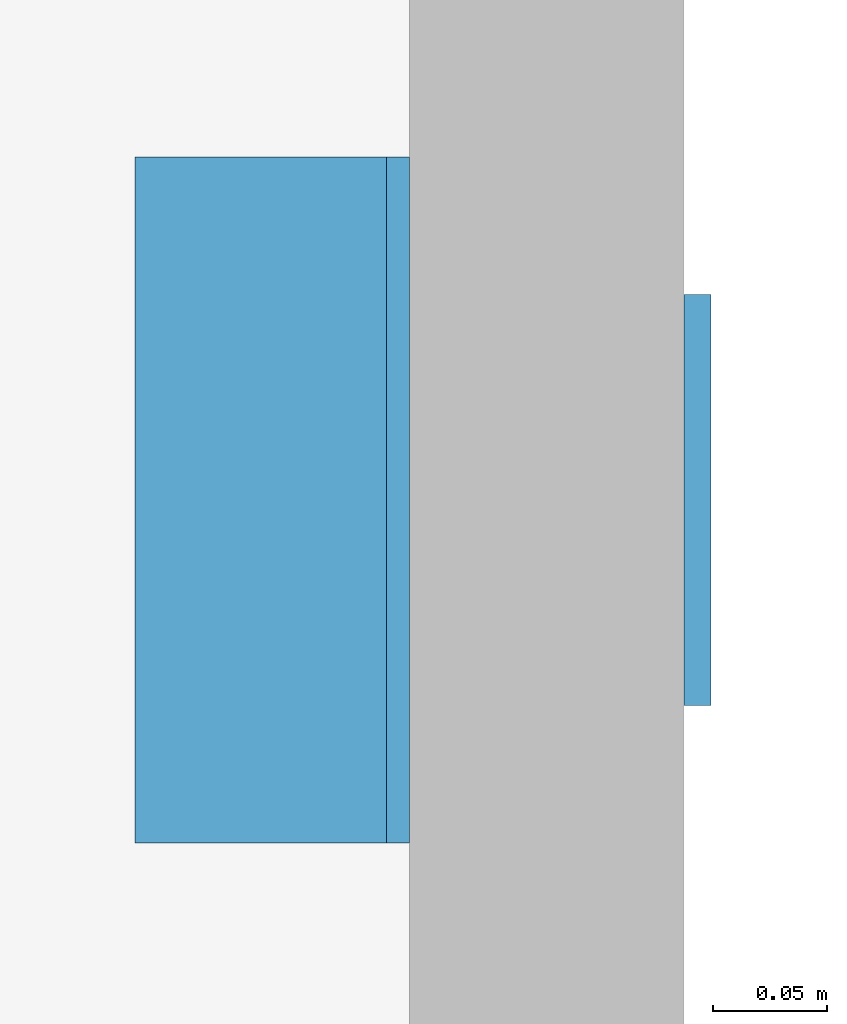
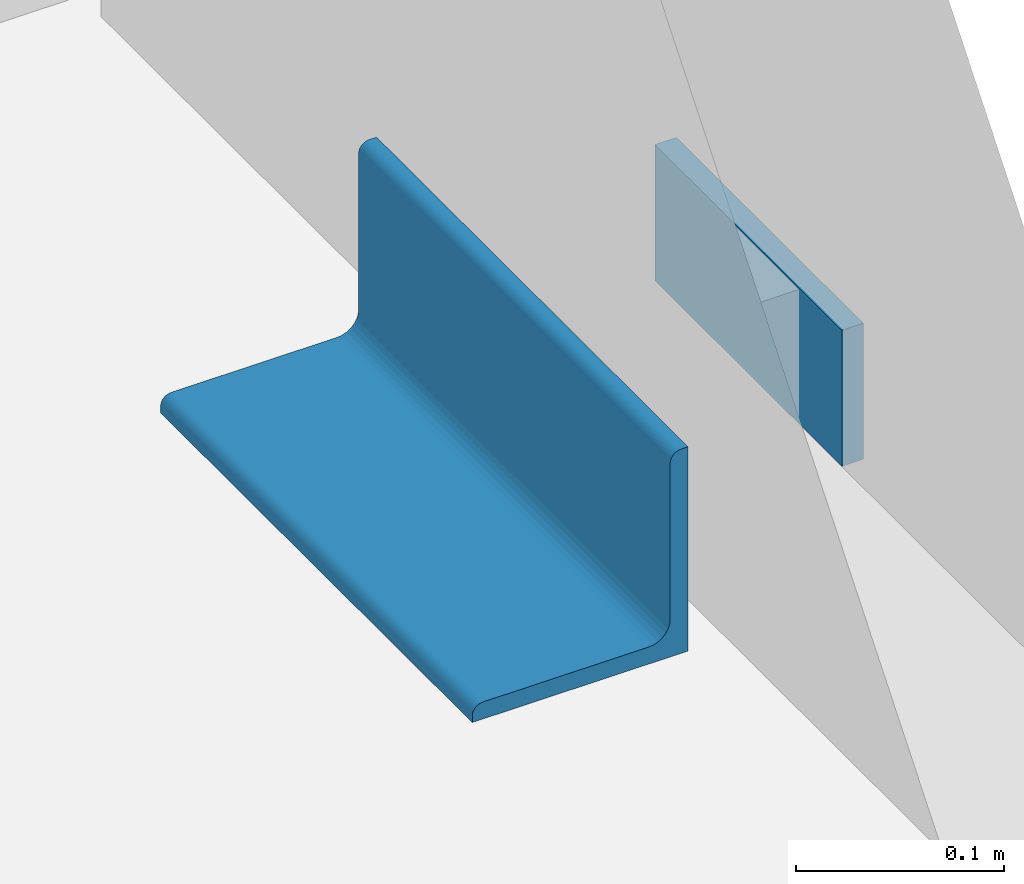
# One storey, part 20 of 31: 2 beams.
"""IFC2X3 building model written with IfcOpenShell, lengths in millimetres."""

import ifcopenshell
import ifcopenshell.guid

model = None  # the IFC model being written
_history = None  # IfcOwnerHistory: only IFC2X3 demands one
_inside = {}  # id of a spatial element -> (the spatial element, [elements in it])
_under = {}  # id of a project, library or spatial element -> (it, [spatial elements below it])
_declared = {}  # id of a project -> (the project, [libraries it declares])
_typed = {}  # id of a type object -> (the type object, [elements of that type])
_made_of = {}  # id of a material, layer set ... -> (it, [elements and type objects made of it])


def new_model(schema):
    """Start an empty IFC model of exactly this schema.

    Asked for "IFC4X3", IfcOpenShell would pick the latest addendum, in which some entities
    have other attributes; the version numbers below select the first issue.
    IFC2X3 requires an IfcOwnerHistory on every rooted entity: one is made here for all.
    """
    global model, _history
    if schema == "IFC4X3":
        model = ifcopenshell.file(schema_version=(4, 3, 0, 0))
    else:
        model = ifcopenshell.file(schema=schema)
    _inside.clear()
    _under.clear()
    _declared.clear()
    _typed.clear()
    _made_of.clear()
    _history = None
    if model.schema == "IFC2X3":
        org = make("IfcOrganization", Name="unknown")
        user = make(
            "IfcPersonAndOrganization",
            ThePerson=make("IfcPerson", FamilyName="unknown"),
            TheOrganization=org,
        )
        app = make(
            "IfcApplication",
            ApplicationDeveloper=org,
            Version="unknown",
            ApplicationFullName="unknown",
            ApplicationIdentifier="unknown",
        )
        _history = make(
            "IfcOwnerHistory",
            OwningUser=user,
            OwningApplication=app,
            ChangeAction="ADDED",
            CreationDate=0,
        )
    return model


def make(cls, **values):
    """One entity of the class cls with the attributes given. An attribute that is None is left unset."""
    return model.create_entity(
        cls, **{name: value for name, value in values.items() if value is not None}
    )


def entity(cls, *values):
    """Any entity or typed value of the class cls, its attributes in the order of the schema. None: left unset."""
    e = model.create_entity(cls)
    for i, value in enumerate(values):
        if value is not None:
            e[i] = value
    return e


def rooted(cls, **values):
    """An entity with a GlobalId (a new one), such as an element, a storey or a relation."""
    return make(cls, GlobalId=ifcopenshell.guid.new(), OwnerHistory=_history, **values)


def si_unit(unit_type, name, prefix=None):
    """IfcSIUnit, for example si_unit("LENGTHUNIT", "METRE", prefix="MILLI")."""
    return make("IfcSIUnit", UnitType=unit_type, Prefix=prefix, Name=name)


def converted_unit(unit_type, name, factor, base, dimensions=None, offset=None):
    """IfcConversionBasedUnit, such as the inch: factor (a typed value) times the base unit."""
    return make(
        "IfcConversionBasedUnit"
        if offset is None
        else "IfcConversionBasedUnitWithOffset",
        ConversionOffset=offset,
        Dimensions=None
        if dimensions is None
        else entity("IfcDimensionalExponents", *dimensions),
        UnitType=unit_type,
        Name=name,
        ConversionFactor=make(
            "IfcMeasureWithUnit", ValueComponent=factor, UnitComponent=base
        ),
    )


def derived_unit(unit_type, elements):
    """IfcDerivedUnit: a product of units, each with its exponent."""
    return make(
        "IfcDerivedUnit",
        Elements=[
            make("IfcDerivedUnitElement", Unit=unit, Exponent=power)
            for unit, power in elements
        ],
        UnitType=unit_type,
    )


def assignment(units):
    """IfcUnitAssignment: the units of a project."""
    return None if units is None else make("IfcUnitAssignment", Units=units)


def point(xyz):
    """IfcCartesianPoint."""
    return None if xyz is None else make("IfcCartesianPoint", Coordinates=xyz)


def direction(xyz):
    """IfcDirection."""
    return None if xyz is None else make("IfcDirection", DirectionRatios=xyz)


def frame(location, z_axis=None, x_axis=None):
    """IfcAxis2Placement3D, a coordinate frame: its origin and axes. An axis left out is left unset."""
    return make(
        "IfcAxis2Placement3D",
        Location=point(location),
        Axis=direction(z_axis),
        RefDirection=direction(x_axis),
    )


def frame_2d(location, x_axis=None):
    """IfcAxis2Placement2D, a coordinate frame in the plane: its origin and x axis."""
    return make(
        "IfcAxis2Placement2D", Location=point(location), RefDirection=direction(x_axis)
    )


def origin():
    """The frame at (0, 0, 0) with its axes left unset."""
    return frame((0.0, 0.0, 0.0))


def origin_2d_with_axis():
    """The frame at (0, 0) in the plane with the x axis (1, 0) written out."""
    return frame_2d((0.0, 0.0), x_axis=(1.0, 0.0))


def place(relative_to, where):
    """IfcLocalPlacement: puts the frame where relative to a parent placement (None: the world)."""
    return make(
        "IfcLocalPlacement", PlacementRelTo=relative_to, RelativePlacement=where
    )


def context(
    kind, dimensions, precision=None, world=None, true_north=None, identifier=None
):
    """IfcGeometricRepresentationContext, for example the 3D "Model" context."""
    return make(
        "IfcGeometricRepresentationContext",
        ContextIdentifier=identifier,
        ContextType=kind,
        CoordinateSpaceDimension=dimensions,
        Precision=precision,
        WorldCoordinateSystem=world,
        TrueNorth=true_north,
    )


def subcontext(parent, identifier, kind, view, scale=None):
    """IfcGeometricRepresentationSubContext, for example "Body" below "Model"."""
    return make(
        "IfcGeometricRepresentationSubContext",
        ContextIdentifier=identifier,
        ContextType=kind,
        ParentContext=parent,
        TargetScale=scale,
        TargetView=view,
    )


def project(units=None, contexts=None):
    """IfcProject with its units and contexts."""
    return rooted(
        "IfcProject",
        Name="project",
        RepresentationContexts=contexts,
        UnitsInContext=assignment(units),
    )


def spatial(cls, under=None, at=None, **own):
    """A site, building, storey or space (cls), placed at a placement, below another one or the project."""
    s = rooted(cls, ObjectPlacement=at, **own)
    if under is not None:
        _under.setdefault(under.id(), (under, []))[1].append(s)
    return s


def polyline(points):
    """IfcPolyline through the points."""
    return make("IfcPolyline", Points=[point(p) for p in points])


def circle_curve(where, radius):
    """IfcCircle in the frame where."""
    return make("IfcCircle", Position=where, Radius=radius)


def parameter(value):
    """IfcParameterValue: where a trimmed curve begins or ends, as a parameter of its basis curve."""
    return model.create_entity("IfcParameterValue", value)


def trimmed(basis, trim1, trim2, sense, master):
    """IfcTrimmedCurve: the piece of a basis curve between two trims."""
    return make(
        "IfcTrimmedCurve",
        BasisCurve=basis,
        Trim1=trim1,
        Trim2=trim2,
        SenseAgreement=sense,
        MasterRepresentation=master,
    )


def segment(curve, same_sense, transition):
    """IfcCompositeCurveSegment."""
    return make(
        "IfcCompositeCurveSegment",
        Transition=transition,
        SameSense=same_sense,
        ParentCurve=curve,
    )


def composite_curve(segments, self_intersect=None):
    """IfcCompositeCurve: segments joined end to end."""
    return make("IfcCompositeCurve", Segments=segments, SelfIntersect=self_intersect)


def profile(cls, at=None, kind="AREA", **sizes):
    """A parametric profile (cls). Its sizes go by their IFC names, for example OverallWidth=200.0."""
    return make(cls, ProfileType=kind, Position=at, **sizes)


def rectangle(**sizes):
    """IfcRectangleProfileDef."""
    return profile("IfcRectangleProfileDef", **sizes)


def outline(outer, holes=None, kind="AREA"):
    """IfcArbitraryClosedProfileDef: a profile drawn as a closed curve; with holes, ...WithVoids."""
    if holes is None:
        return make("IfcArbitraryClosedProfileDef", ProfileType=kind, OuterCurve=outer)
    return make(
        "IfcArbitraryProfileDefWithVoids",
        ProfileType=kind,
        OuterCurve=outer,
        InnerCurves=holes,
    )


def extrude(swept, where, along, depth):
    """IfcExtrudedAreaSolid: the profile swept, set in the frame where, extruded along a direction by depth."""
    return make(
        "IfcExtrudedAreaSolid",
        SweptArea=swept,
        Position=where,
        ExtrudedDirection=direction(along),
        Depth=depth,
    )


def shape(context_of_items, identifier, shape_type, items):
    """IfcShapeRepresentation: the items that make up one representation, for example the "Body"."""
    return make(
        "IfcShapeRepresentation",
        ContextOfItems=context_of_items,
        RepresentationIdentifier=identifier,
        RepresentationType=shape_type,
        Items=items,
    )


def source(mapping_origin, context_of_items, identifier, shape_type, items):
    """IfcRepresentationMap: a shape defined once, which mapped items show again and again."""
    return make(
        "IfcRepresentationMap",
        MappingOrigin=mapping_origin,
        MappedRepresentation=shape(context_of_items, identifier, shape_type, items),
    )


def transform(
    local_origin,
    x_axis=None,
    y_axis=None,
    z_axis=None,
    scale=None,
    scale2=None,
    scale3=None,
    uniform=True,
):
    """IfcCartesianTransformationOperator3D, or its non-uniform kind. x_axis, y_axis, z_axis: its Axis1, 2, 3."""
    if uniform:
        return make(
            "IfcCartesianTransformationOperator3D",
            Axis1=direction(x_axis),
            Axis2=direction(y_axis),
            LocalOrigin=point(local_origin),
            Scale=scale,
            Axis3=direction(z_axis),
        )
    return make(
        "IfcCartesianTransformationOperator3DnonUniform",
        Axis1=direction(x_axis),
        Axis2=direction(y_axis),
        LocalOrigin=point(local_origin),
        Scale=scale,
        Axis3=direction(z_axis),
        Scale2=scale2,
        Scale3=scale3,
    )


def mapped(mapping_source, mapping_target):
    """IfcMappedItem: shows the shape of a source again, moved by a transform."""
    return make(
        "IfcMappedItem", MappingSource=mapping_source, MappingTarget=mapping_target
    )


def material(Name=None, Category=None):
    """IfcMaterial."""
    return make("IfcMaterial", Name=Name, Category=Category)


def made_of(thing, what):
    """Note that an element or type object is made of a material, layer set ...; save() writes the relation."""
    if what is not None:
        _made_of.setdefault(what.id(), (what, []))[1].append(thing)
    return thing


def type_object(cls, material=None, **own):
    """A type object (cls), such as IfcWallType, which elements share."""
    return made_of(rooted(cls, **own), material)


def type_shapes(of_type, sources):
    """Give a type object the sources (RepresentationMaps) that its elements show as mapped items."""
    of_type.RepresentationMaps = sources


def element(
    cls,
    number,
    at=None,
    inside=None,
    cuts=None,
    type_object=None,
    material=None,
    context=None,
    identifier="Body",
    shape_type=None,
    held_by="IfcProductDefinitionShape",
    body=None,
    shapes=None,
    **own,
):
    """One element of the class cls, such as IfcWall. Its Tag is "e" and its number.

    at: its placement. inside: the storey or other place that contains it. cuts: it is an
    opening in that element (IfcRelVoidsElement). A single representation is given by context,
    identifier, shape_type and body (its items); several are given by shapes. held_by: the class
    of the entity that holds the representations. save() writes the other relations.
    """
    e = rooted(cls, Tag="e%d" % number, ObjectPlacement=at, **own)
    if body is not None:
        shapes = [shape(context, identifier, shape_type, body)]
    if shapes is not None:
        e.Representation = make(held_by, Representations=shapes)
    if inside is not None:
        _inside.setdefault(inside.id(), (inside, []))[1].append(e)
    if cuts is not None:
        rooted(
            "IfcRelVoidsElement", RelatingBuildingElement=cuts, RelatedOpeningElement=e
        )
    if type_object is not None:
        _typed.setdefault(type_object.id(), (type_object, []))[1].append(e)
    return made_of(e, material)


def aggregate(whole, parts):
    """IfcRelAggregates: a whole, such as a stair, and the parts it consists of."""
    return rooted("IfcRelAggregates", RelatingObject=whole, RelatedObjects=parts)


def save(model, path):
    """Write the relations noted so far, then the file.

    IfcRelAggregates (storeys below a building ...), IfcRelContainedInSpatialStructure (elements
    in a storey), IfcRelDefinesByType, IfcRelAssociatesMaterial and IfcRelDeclares: one each for
    every whole, place, type object, material and project.
    """
    for whole, parts in _under.values():
        aggregate(whole, parts)
    for where, things in _inside.values():
        rooted(
            "IfcRelContainedInSpatialStructure",
            RelatedElements=things,
            RelatingStructure=where,
        )
    for kind, things in _typed.values():
        rooted("IfcRelDefinesByType", RelatedObjects=things, RelatingType=kind)
    for what, things in _made_of.values():
        rooted("IfcRelAssociatesMaterial", RelatedObjects=things, RelatingMaterial=what)
    for by, libraries in _declared.values():
        rooted("IfcRelDeclares", RelatingContext=by, RelatedDefinitions=libraries)
    model.write(path)


model = new_model("IFC2X3")

# Units and contexts
model_context = context("Model", 3, precision=0.01, world=origin(), true_north=direction((6.12303176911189e-17, 1.0)))
body_context = subcontext(model_context, "Body", "Model", "MODEL_VIEW")
ifc_project = project(units=[si_unit("LENGTHUNIT", "METRE", prefix="MILLI"), si_unit("AREAUNIT", "SQUARE_METRE"), si_unit("VOLUMEUNIT", "CUBIC_METRE"), converted_unit("PLANEANGLEUNIT", "DEGREE", entity("IfcRatioMeasure", 0.0174532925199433), si_unit("PLANEANGLEUNIT", "RADIAN"), dimensions=[0, 0, 0, 0, 0, 0, 0]), si_unit("MASSUNIT", "GRAM", prefix="KILO"), derived_unit("MASSDENSITYUNIT", [(si_unit("MASSUNIT", "GRAM", prefix="KILO"), 1), (si_unit("LENGTHUNIT", "METRE"), -3)]), si_unit("TIMEUNIT", "SECOND"), si_unit("FREQUENCYUNIT", "HERTZ"), si_unit("THERMODYNAMICTEMPERATUREUNIT", "DEGREE_CELSIUS"), derived_unit("THERMALTRANSMITTANCEUNIT", [(si_unit("MASSUNIT", "GRAM", prefix="KILO"), 1), (si_unit("THERMODYNAMICTEMPERATUREUNIT", "KELVIN"), -1), (si_unit("TIMEUNIT", "SECOND"), -3)]), derived_unit("VOLUMETRICFLOWRATEUNIT", [(si_unit("LENGTHUNIT", "METRE"), 3), (si_unit("TIMEUNIT", "SECOND"), -1)]), si_unit("ELECTRICCURRENTUNIT", "AMPERE"), si_unit("ELECTRICVOLTAGEUNIT", "VOLT"), si_unit("POWERUNIT", "WATT"), si_unit("FORCEUNIT", "NEWTON", prefix="KILO"), si_unit("ILLUMINANCEUNIT", "LUX"), si_unit("LUMINOUSFLUXUNIT", "LUMEN"), si_unit("LUMINOUSINTENSITYUNIT", "CANDELA"), derived_unit("USERDEFINED", [(si_unit("MASSUNIT", "GRAM", prefix="KILO"), -1), (si_unit("LENGTHUNIT", "METRE"), -2), (si_unit("TIMEUNIT", "SECOND"), 3), (si_unit("LUMINOUSFLUXUNIT", "LUMEN"), 1)]), derived_unit("LINEARVELOCITYUNIT", [(si_unit("LENGTHUNIT", "METRE"), 1), (si_unit("TIMEUNIT", "SECOND"), -1)]), si_unit("PRESSUREUNIT", "PASCAL"), derived_unit("USERDEFINED", [(si_unit("LENGTHUNIT", "METRE"), -2), (si_unit("MASSUNIT", "GRAM", prefix="KILO"), 1), (si_unit("TIMEUNIT", "SECOND"), -2)])], contexts=[model_context])

# Site, building, storey
site_placement = place(None, origin())
site = spatial("IfcSite", under=ifc_project, at=site_placement, Name="Default", CompositionType="ELEMENT")
building_placement = place(site_placement, origin())
building = spatial("IfcBuilding", under=site, at=building_placement, Name="niet gebruiken", CompositionType="ELEMENT")
storey_placement = place(building_placement, frame((0.0, 0.0, 12000.0)))
storey = spatial("IfcBuildingStorey", under=building, at=storey_placement, Name="03 derde verdieping", CompositionType="ELEMENT", Elevation=12000.0)

# Beams
ifc_material = material(Name="NLRS_h2_staal")
beam_type_1 = type_object("IfcBeamType", Name="NLRS_28.11_SF_WPB_stalen ligger hoekprofiel gelijkzijdig_gen:ligger gelijzijdig hoekprofiel LEQU_120x120x12_!", PredefinedType="BEAM")
beam_1_placement = place(storey_placement, frame((158660.0, 32505.0, 30.0), z_axis=(0.0, 0.0, 1.0), x_axis=(0.0, 1.0, 0.0)))
element("IfcBeam", 1, at=beam_1_placement, inside=storey, type_object=beam_type_1, material=ifc_material, Name="NLRS_28.11_SF_WPB_stalen ligger hoekprofiel gelijkzijdig_gen:ligger gelijzijdig hoekprofiel LEQU_120x120x12_!", ObjectType="NLRS_28.11_SF_WPB_stalen ligger hoekprofiel gelijkzijdig_gen:ligger gelijzijdig hoekprofiel LEQU_120x120x12_!", context=body_context, shape_type="SweptSolid", body=[
    extrude(outline(composite_curve([segment(polyline([(-75.5555555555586, -44.4444444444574), (44.4444444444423, -44.4444444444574)]), True, "CONTINUOUS"), segment(polyline([(44.4444444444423, -44.4444444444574), (44.4444444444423, 75.5555555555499)]), True, "CONTINUOUS"), segment(polyline([(44.4444444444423, 75.5555555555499), (40.444444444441, 75.5555555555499)]), True, "CONTINUOUS"), segment(trimmed(circle_curve(frame_2d((40.4444444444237, 69.5555555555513), x_axis=(0.0, 1.0)), 5.9999999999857), [parameter(0.0)], [parameter(90.0000000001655)], True, "PARAMETER"), True, "CONTINUOUS"), segment(polyline([(34.4444444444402, 69.5555555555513), (34.4444444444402, -22.4444444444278)]), True, "CONTINUOUS"), segment(trimmed(circle_curve(frame_2d((22.4444444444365, -22.4444444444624), x_axis=(1.0, 0.0)), 12.000000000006), [parameter(270.000000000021)], [parameter(0.0)], True, "PARAMETER"), False, "CONTINUOUS"), segment(polyline([(22.4444444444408, -34.4444444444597), (-69.55555555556, -34.4444444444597)]), True, "CONTINUOUS"), segment(trimmed(circle_curve(frame_2d((-69.5555555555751, -40.4444444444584), x_axis=(0.0, 1.0)), 5.9999999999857), [parameter(0.0)], [parameter(90.0000000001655)], True, "PARAMETER"), True, "CONTINUOUS"), segment(polyline([(-75.5555555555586, -40.4444444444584), (-75.5555555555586, -44.4444444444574)]), True, "CONTINUOUS")], self_intersect=False)), frame((0.0, 24.4444444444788, -75.5555555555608), z_axis=(1.0, 0.0, 0.0), x_axis=(0.0, 0.0, -1.0)), (0.0, 0.0, 1.0), 300.000000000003),
])
beam_type_2 = type_object("IfcBeamType", Name="ligger stripstaal RECT_80x12 gedraaid_!", PredefinedType="BEAM", material=ifc_material)
shared_shape = source(origin(), body_context, "Body", "SweptSolid", [
    extrude(rectangle(XDim=179.99999999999, YDim=12.0, at=origin_2d_with_axis()), frame((0.0, 0.0, -40.0), z_axis=(0.0, 0.0, 1.0), x_axis=(-1.0, 0.0, 0.0)), (0.0, 0.0, 1.0), 80.0),
    extrude(rectangle(XDim=179.99999999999, YDim=12.0, at=origin_2d_with_axis()), frame((0.0, 0.0, -40.0), z_axis=(0.0, 0.0, 1.0), x_axis=(-1.0, 0.0, 0.0)), (0.0, 0.0, 1.0), 80.0),
])
type_shapes(beam_type_2, [shared_shape])
beam_2_placement = place(storey_placement, frame((158806.0, 32655.0, -20.0), z_axis=(0.0, 0.0, 1.0), x_axis=(0.0, -1.0, 0.0)))
element("IfcBeam", 2, at=beam_2_placement, inside=storey, type_object=beam_type_2, material=ifc_material, Name="NLRS_28.11_SF_WPB_stalen ligger stripstaal_gen:ligger stripstaal RECT_80x12 gedraaid_!", ObjectType="ligger stripstaal RECT_80x12 gedraaid_!", context=body_context, shape_type="MappedRepresentation", body=[
    mapped(shared_shape, transform((0.0, 0.0, 0.0), scale=1.0)),
])

save(model, "model.ifc")
